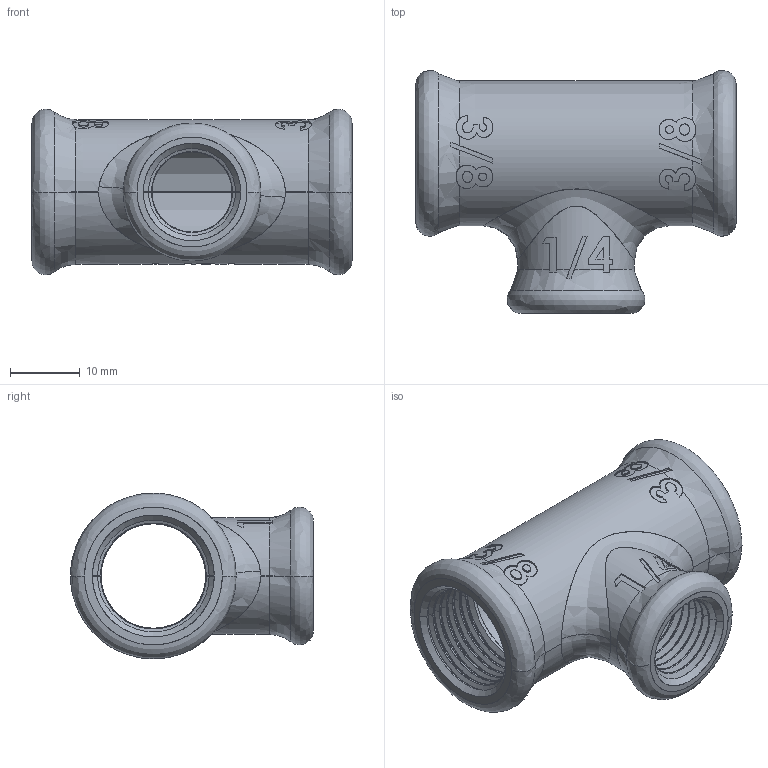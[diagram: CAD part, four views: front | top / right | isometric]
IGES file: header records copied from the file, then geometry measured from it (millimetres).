
Start section: SolidWorks IGES file using analytic representation for surfaces
Global section: file name: C:\Users\Joel Rosa\Desktop\Tubulação\12-45-XXX\12-45-023.IGS; native system: SolidWorks 2011; preprocessor: SolidWorks 2011; author: Joel Rosa; date: 121212.232854; units: millimetre
Bounding box: 46 x 34.9 x 23.8 mm (x, y, z)
Surface area: 7853.8 mm2 (no closed solid volume)
Topology: 0 solids, 0 shells, 416 faces, 4931 edges, 4931 vertices
Faces by surface type: bspline 295, revolution 121
